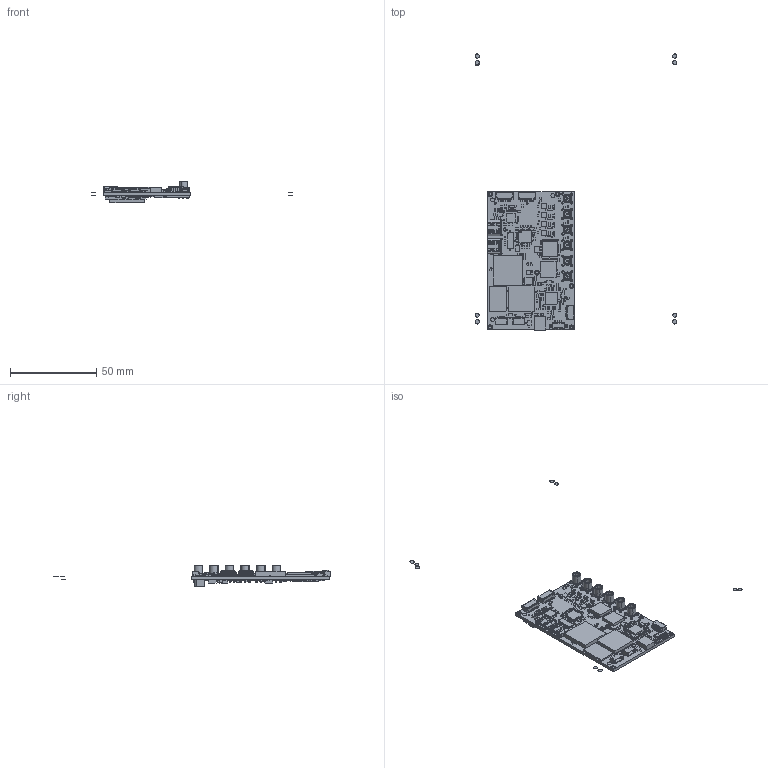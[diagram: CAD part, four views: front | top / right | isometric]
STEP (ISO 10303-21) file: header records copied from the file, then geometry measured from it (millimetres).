
FILE_DESCRIPTION(/* description */ ('PCB Design'),/* implementation_level */ '2;1');
FILE_NAME(/* name */ 'Jupiter_Mini_R2',/* time_stamp */ '2024-09-30T11:34:48+03:00',/* author */ (''),/* organization */ (''),/* preprocessor_version */ 'ST-DEVELOPER v16',/* originating_system */ 'allegro_17.2S083',/* authorisation */ '');
FILE_SCHEMA (('AUTOMOTIVE_DESIGN { 1 0 10303 214 3 1 1 }'));
Products named in the file (107): JUPITER_MINI_R2; BOARD_OUTLINE; COMPONENTS; MU98K130; KC2520_2P5X2P0; DFE201612C; X32_3P2X2P5; C0402; R0402; HUQFN16_1P6X2P4; TQFN42_3_5X9_05EP; FBGA400_17X17_08; 0532610471; DBV5; MSOP8_ROHM; RGY0020A; ZEC0036A; QTH-020-02-F-D-DP-A; 82_MCX_75_0_5_111_NH; 5031820853; TPAD_015; SOT-323N; DX07S024JA2-V1; IND_0402_NXP; DFN8_3X3_05; DDC0006A; HX2QFN16_0P4_2P7X2P7; WLCSP42_0P4_2P94X2P54_SMDP; WSON8-1R27-8X6; WLCSP12_0P4_1P3X1P7MM_SMDP; RENESAS_L48_7X7W; TPAD_050; XAL4020; DFE252012C; L0402; FB0603; C0805; LBGA100_9X9_08; SM05B-SRSS-TB; PSOP8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
Assembly tree (1083 placements, depth 5):
  JUPITER_MINI_R2
    BOARD_OUTLINE
    COMPONENTS
      MU98K130  x4
      KC2520_2P5X2P0  x3
        product
      DFE201612C  x6
        product
      X32_3P2X2P5  x3
        ASSEMBLY
          Body
          Pins
      C0402  x179
      R0402  x201
      HUQFN16_1P6X2P4  x2
        ASSEMBLY
          Body
          Pins
      TQFN42_3_5X9_05EP
        ASSEMBLY
          Body
          ThermalPin
          PinsArrayLR
          PinsArrayTB
      FBGA400_17X17_08
      0532610471
        532610471
      DBV5  x4
        DBV0005A_ASM
          BODY-SOT
          LEAD-SOT  x5
          LEAD-DUMMY
      MSOP8_ROHM  x4
      RGY0020A
        RGY20
      ZEC0036A
        ZEC0036A_ASM
          CORE
          SOLDER_BALL  x36
          MOLD
          SOLDER_MASK
      QTH-020-02-F-D-DP-A
      82_MCX_75_0_5_111_NH  x6
        PAR-00102977
      5031820853
        5031820853
      TPAD_015  x3
      SOT-323N
        BAT54SW,115
      DX07S024JA2-V1  x2
        K3D-DX07S024JA2-V1_JAE_Proprietary
      IND_0402_NXP  x15
      DFN8_3X3_05
      DDC0006A
      HX2QFN16_0P4_2P7X2P7
      WLCSP42_0P4_2P94X2P54_SMDP
      WSON8-1R27-8X6
      WLCSP12_0P4_1P3X1P7MM_SMDP
      RENESAS_L48_7X7W
        ASSEMBLY
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Bounding box: 116.79 x 159.66 x 12.5 mm (x, y, z)
Volume: 1443.6 mm3; surface area: 21463.2 mm2
Topology: 372 solids, 1338 shells, 13407 faces, 32387 edges, 20531 vertices
Faces by surface type: plane 11173, cylinder 1706, cone 248, sphere 120, torus 104, bspline 56
Full cylindrical faces by diameter (mm): 0.438 x1, 0.875 x1
Entity records: 184559 total; most frequent: CARTESIAN_POINT 30774, DIRECTION 28128, ORIENTED_EDGE 25456, VECTOR 13294, LINE 13294, EDGE_CURVE 12828, AXIS2_PLACEMENT_3D 9015, VERTEX_POINT 8509
